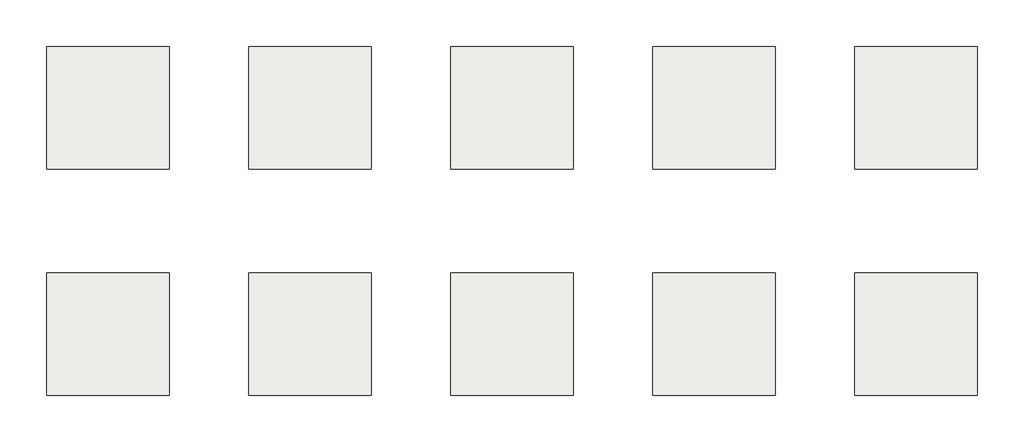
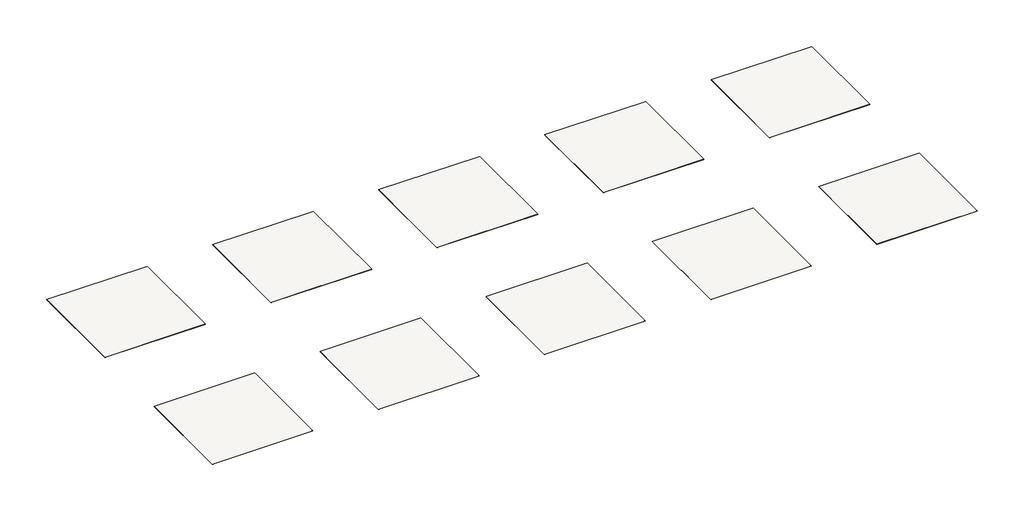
# One storey: 10 slabs.
"""IFC4 building model written with IfcOpenShell, lengths in millimetres."""

from ifc_helpers import new_model, si_unit, frame, origin, place, context, project, spatial, polyline, outline, extrude, element, save

model = new_model("IFC4")

# Units and contexts
model_context = context("Model", 3, world=origin())
ifc_project = project(units=[si_unit("LENGTHUNIT", "METRE", prefix="MILLI")], contexts=[model_context])

# Site, building, storey
site = spatial("IfcSite", under=ifc_project)
building = spatial("IfcBuilding", under=site)
storey = spatial("IfcBuildingStorey", under=building, Name="Tarkett Brasil", Elevation=0.0)

# Slabs
placement = place(None, origin())
element("IfcSlab", 1, ObjectType="Tarkett Brasil - Vinyl - Ambienta Tech - Ameixa 24089516", at=placement, inside=storey, context=model_context, shape_type="SweptSolid", body=[
    extrude(outline(polyline([(-15702.4114832, 39877.5655387), (-15702.4114832, 37877.5655387), (-17702.4114832, 37877.5655387), (-17702.4114832, 39877.5655387), (-15702.4114832, 39877.5655387)])), frame((0.0, 0.0, -5.0), z_axis=(0.0, 0.0, 1.0), x_axis=(1.0, 0.0, 0.0)), (0.0, 0.0, 1.0), 5.0),
])
element("IfcSlab", 2, ObjectType="Tarkett Brasil - Vinyl - Ambienta Tech - Carvalho Almafi 24089111", at=placement, inside=storey, context=model_context, shape_type="SweptSolid", body=[
    extrude(outline(polyline([(-12402.4114832, 39877.5655387), (-12402.4114832, 37877.5655387), (-14402.4114832, 37877.5655387), (-14402.4114832, 39877.5655387), (-12402.4114832, 39877.5655387)])), frame((0.0, 0.0, -5.0), z_axis=(0.0, 0.0, 1.0), x_axis=(1.0, 0.0, 0.0)), (0.0, 0.0, 1.0), 5.0),
])
element("IfcSlab", 3, ObjectType="Tarkett Brasil - Vinyl - Ambienta Tech - CarvalhoBranco 24089129", at=placement, inside=storey, context=model_context, shape_type="SweptSolid", body=[
    extrude(outline(polyline([(-9102.4114832, 39877.5655387), (-9102.4114832, 37877.5655387), (-11102.4114832, 37877.5655387), (-11102.4114832, 39877.5655387), (-9102.4114832, 39877.5655387)])), frame((0.0, 0.0, -5.0), z_axis=(0.0, 0.0, 1.0), x_axis=(1.0, 0.0, 0.0)), (0.0, 0.0, 1.0), 5.0),
])
element("IfcSlab", 4, ObjectType="Tarkett Brasil - Vinyl - Ambienta Tech - CarvalhoCinza 24089530", at=placement, inside=storey, context=model_context, shape_type="SweptSolid", body=[
    extrude(outline(polyline([(-5802.4114832, 39877.5655387), (-5802.4114832, 37877.5655387), (-7802.4114832, 37877.5655387), (-7802.4114832, 39877.5655387), (-5802.4114832, 39877.5655387)])), frame((0.0, 0.0, -5.0), z_axis=(0.0, 0.0, 1.0), x_axis=(1.0, 0.0, 0.0)), (0.0, 0.0, 1.0), 5.0),
])
element("IfcSlab", 5, ObjectType="Tarkett Brasil - Vinyl - Ambienta Tech - Grapia 24089715", at=placement, inside=storey, context=model_context, shape_type="SweptSolid", body=[
    extrude(outline(polyline([(-2502.4114832, 39877.5655387), (-2502.4114832, 37877.5655387), (-4502.4114832, 37877.5655387), (-4502.4114832, 39877.5655387), (-2502.4114832, 39877.5655387)])), frame((0.0, 0.0, -5.0), z_axis=(0.0, 0.0, 1.0), x_axis=(1.0, 0.0, 0.0)), (0.0, 0.0, 1.0), 5.0),
])
element("IfcSlab", 6, ObjectType="Tarkett Brasil - Vinyl - Ambienta Tech - Mel 24089517", at=placement, inside=storey, context=model_context, shape_type="SweptSolid", body=[
    extrude(outline(polyline([(-15702.4114832, 36177.5655387), (-15702.4114832, 34177.5655387), (-17702.4114832, 34177.5655387), (-17702.4114832, 36177.5655387), (-15702.4114832, 36177.5655387)])), frame((0.0, 0.0, -5.0), z_axis=(0.0, 0.0, 1.0), x_axis=(1.0, 0.0, 0.0)), (0.0, 0.0, 1.0), 5.0),
])
element("IfcSlab", 7, ObjectType="Tarkett Brasil - Vinyl - Ambienta Tech - MineriumDarkGrey 24090417", at=placement, inside=storey, context=model_context, shape_type="SweptSolid", body=[
    extrude(outline(polyline([(-12402.4114832, 36177.5655387), (-12402.4114832, 34177.5655387), (-14402.4114832, 34177.5655387), (-14402.4114832, 36177.5655387), (-12402.4114832, 36177.5655387)])), frame((0.0, 0.0, -5.0), z_axis=(0.0, 0.0, 1.0), x_axis=(1.0, 0.0, 0.0)), (0.0, 0.0, 1.0), 5.0),
])
element("IfcSlab", 8, ObjectType="Tarkett Brasil - Vinyl - Ambienta Tech - MineriumLightGrey 24090415", at=placement, inside=storey, context=model_context, shape_type="SweptSolid", body=[
    extrude(outline(polyline([(-9102.4114832, 36177.5655387), (-9102.4114832, 34177.5655387), (-11102.4114832, 34177.5655387), (-11102.4114832, 36177.5655387), (-9102.4114832, 36177.5655387)])), frame((0.0, 0.0, -5.0), z_axis=(0.0, 0.0, 1.0), x_axis=(1.0, 0.0, 0.0)), (0.0, 0.0, 1.0), 5.0),
])
element("IfcSlab", 9, ObjectType="Tarkett Brasil - Vinyl - Ambienta Tech - Oliva 24089518", at=placement, inside=storey, context=model_context, shape_type="SweptSolid", body=[
    extrude(outline(polyline([(-5802.4114832, 36177.5655387), (-5802.4114832, 34177.5655387), (-7802.4114832, 34177.5655387), (-7802.4114832, 36177.5655387), (-5802.4114832, 36177.5655387)])), frame((0.0, 0.0, -5.0), z_axis=(0.0, 0.0, 1.0), x_axis=(1.0, 0.0, 0.0)), (0.0, 0.0, 1.0), 5.0),
])
element("IfcSlab", 10, ObjectType="Tarkett Brasil - Vinyl - Ambienta Tech - Wengu 24089117", at=placement, inside=storey, context=model_context, shape_type="SweptSolid", body=[
    extrude(outline(polyline([(-2502.4114832, 36177.5655387), (-2502.4114832, 34177.5655387), (-4502.4114832, 34177.5655387), (-4502.4114832, 36177.5655387), (-2502.4114832, 36177.5655387)])), frame((0.0, 0.0, -5.0), z_axis=(0.0, 0.0, 1.0), x_axis=(1.0, 0.0, 0.0)), (0.0, 0.0, 1.0), 5.0),
])

save(model, "model.ifc")
